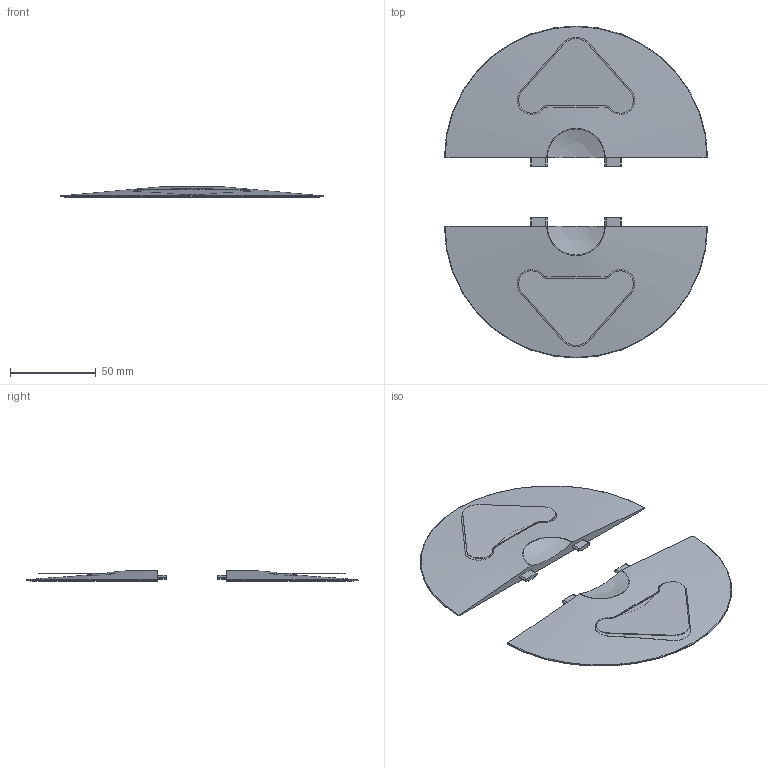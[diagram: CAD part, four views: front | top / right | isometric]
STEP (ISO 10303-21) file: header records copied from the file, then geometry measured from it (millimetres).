
FILE_DESCRIPTION(/* description */ ('STEP AP203'),/* implementation_level */ '2;1');
FILE_NAME(/* name */ '02084LLS01',/* time_stamp */ '2026-01-27T14:33:32+01:00',/* author */ ('License CC BY-ND 4.0'),/* organization */ ('CADENAS'),/* preprocessor_version */ 'ST-DEVELOPER v20',/* originating_system */ 'PARTsolutions',/* authorisation */ ' ');
FILE_SCHEMA (('CONFIG_CONTROL_DESIGN'));
Length unit declared in the file: millimetre
Products named in the file (2): 02084LLS01; 02084LLS01-1
Assembly tree (2 placements, depth 2):
  02084LLS01
    02084LLS01-1  x2
Bounding box: 153.09 x 193.09 x 6.22 mm (x, y, z)
Volume: 56517.1 mm3; surface area: 45667.9 mm2
Topology: 2 solids, 2 shells, 108 faces, 292 edges, 194 vertices
Faces by surface type: plane 50, cylinder 46, torus 6, cone 4, sphere 2
Entity records: 1801 total; most frequent: CARTESIAN_POINT 387, DIRECTION 290, ORIENTED_EDGE 288, EDGE_CURVE 144, AXIS2_PLACEMENT_3D 106, VERTEX_POINT 96, LINE 78, VECTOR 78
